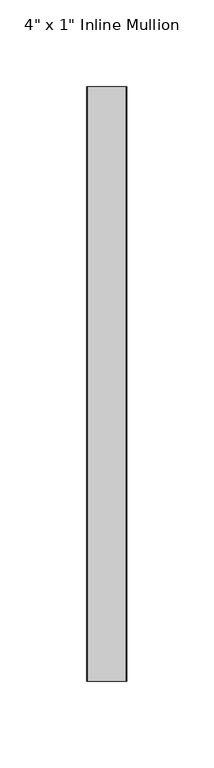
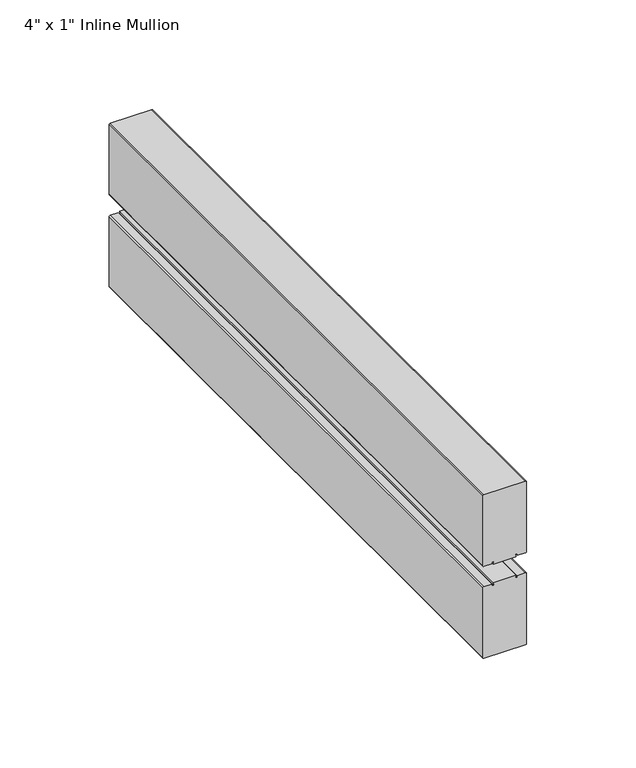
"""IFC4 building model written with IfcOpenShell, lengths in millimetres: proxy geometry."""

from ifc_helpers import new_model, si_unit, point, frame, frame_2d, origin, place, context, project, spatial, polyline, circle_curve, trimmed, segment, composite_curve, outline, extrude, source, transform, mapped, element, save


def proxy_bac09f52(model_context):
    return source(origin(), model_context, "Body", "SweptSolid", [
        extrude(outline(composite_curve([segment(polyline([(39.94, -11.5), (1.0, -11.5)]), True, "CONTINUOUS"), segment(trimmed(circle_curve(frame_2d((1.0, -11.0)), 0.5), [point((1.0, -11.5))], [point((0.5, -11.0))], False, "CARTESIAN"), True, "CONTINUOUS"), segment(polyline([(0.5, -11.0), (0.5, -6.75), (1.5, -6.75), (1.5, -5.7984177), (0.0, -6.0), (0.0, 6.0), (1.5, 5.7984177), (1.5, 6.75), (0.5, 6.75), (0.5, 11.0)]), True, "CONTINUOUS"), segment(trimmed(circle_curve(frame_2d((1.0, 11.0)), 0.5), [point((0.5, 11.0))], [point((1.0, 11.5))], False, "CARTESIAN"), True, "CONTINUOUS"), segment(polyline([(1.0, 11.5), (39.94, 11.5)]), True, "CONTINUOUS"), segment(trimmed(circle_curve(frame_2d((39.94, 11.0)), 0.5), [point((39.94, 11.5))], [point((40.44, 11.0))], False, "CARTESIAN"), True, "CONTINUOUS"), segment(polyline([(40.44, 11.0), (40.44, -11.0)]), True, "CONTINUOUS"), segment(trimmed(circle_curve(frame_2d((39.94, -11.0)), 0.5), [point((40.44, -11.0))], [point((39.94, -11.5))], False, "CARTESIAN"), True, "CONTINUOUS")], self_intersect=False)), frame((0.0, -170.9049291, 0.0), z_axis=(0.0, 1.0, 0.0), x_axis=(0.0, 0.0, 1.0)), (0.0, 0.0, 1.0), 341.8098583),
        extrude(outline(composite_curve([segment(trimmed(circle_curve(frame_2d((-11.31875, -11.0)), 0.5), [point((-10.81875, -11.0))], [point((-11.31875, -11.5))], False, "CARTESIAN"), True, "CONTINUOUS"), segment(polyline([(-11.31875, -11.5), (-50.25875, -11.5)]), True, "CONTINUOUS"), segment(trimmed(circle_curve(frame_2d((-50.25875, -11.0)), 0.5), [point((-50.25875, -11.5))], [point((-50.75875, -11.0))], False, "CARTESIAN"), True, "CONTINUOUS"), segment(polyline([(-50.75875, -11.0), (-50.75875, 11.0)]), True, "CONTINUOUS"), segment(trimmed(circle_curve(frame_2d((-50.25875, 11.0)), 0.5), [point((-50.75875, 11.0))], [point((-50.25875, 11.5))], False, "CARTESIAN"), True, "CONTINUOUS"), segment(polyline([(-50.25875, 11.5), (-11.31875, 11.5)]), True, "CONTINUOUS"), segment(trimmed(circle_curve(frame_2d((-11.31875, 11.0)), 0.5), [point((-11.31875, 11.5))], [point((-10.81875, 11.0))], False, "CARTESIAN"), True, "CONTINUOUS"), segment(polyline([(-10.81875, 11.0), (-10.81875, 6.75), (-11.81875, 6.75), (-11.81875, 5.7984177), (-10.31875, 6.0), (-10.31875, -6.0), (-11.81875, -5.7984177), (-11.81875, -6.75), (-10.81875, -6.75), (-10.81875, -11.0)]), True, "CONTINUOUS")], self_intersect=False)), frame((0.0, -170.9049291, 0.0), z_axis=(0.0, 1.0, 0.0), x_axis=(0.0, 0.0, 1.0)), (0.0, 0.0, 1.0), 341.8098583),
    ])


if __name__ == "__main__":
    model = new_model("IFC4")
    model_context = context("Model", 3, world=origin())
    ifc_project = project(units=[si_unit("LENGTHUNIT", "METRE", prefix="MILLI")], contexts=[model_context])
    site = spatial("IfcSite", under=ifc_project)
    building = spatial("IfcBuilding", under=site)
    placement = place(None, origin())
    proxy_shape = proxy_bac09f52(model_context)
    element("IfcBuildingElementProxy", 1, Name="Frame-Teknion-Architectural_Complements-FCMI_4x1_Mullion-R2016 : 4\" x 1\" Inline Mullion", ObjectType="Frame-Teknion-Architectural_Complements-FCMI_4x1_Mullion-R2016 : 4\" x 1\" Inline Mullion", at=placement, inside=building, context=model_context, shape_type="MappedRepresentation", body=[
        mapped(proxy_shape, transform((0.0, 0.0, 0.0), x_axis=(1.0, 0.0, 0.0), y_axis=(0.0, 1.0, 0.0), z_axis=(0.0, 0.0, 1.0))),
    ])
    save(model, "model.ifc")
